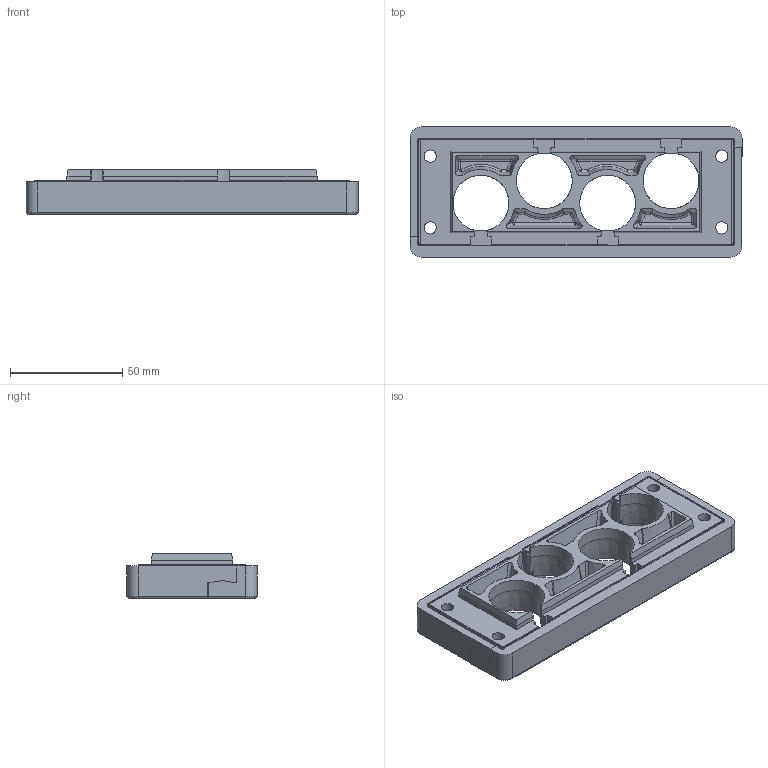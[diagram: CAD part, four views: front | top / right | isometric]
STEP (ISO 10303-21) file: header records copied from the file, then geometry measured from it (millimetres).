
FILE_DESCRIPTION(/* description */ (''),/* implementation_level */ '2;1');
FILE_NAME(/* name */ 'H:\SapWorkDir\Inventor\MP1\ConvertTempPath\87_11_121450_00_A_220620_KDL-C 24-4 ZSB.stp',/* time_stamp */ '2022-06-20T07:41:33+02:00',/* author */ ('BAUER'),/* organization */ (''),/* preprocessor_version */ 'ST-DEVELOPER v16.13',/* originating_system */ 'Autodesk Inventor 2018',/* authorisation */ '');
FILE_SCHEMA (('AUTOMOTIVE_DESIGN { 1 0 10303 214 3 1 1 }'));
Length unit declared in the file: millimetre
Products named in the file (3): 121450; Block2x6 neu; 121396
Assembly tree (3 placements, depth 2):
  121450
    Block2x6 neu
    121396  x2
Bounding box: 148 x 58 x 20 mm (x, y, z)
Volume: 89322.3 mm3; surface area: 45638.8 mm2
Topology: 3 solids, 3 shells, 1004 faces, 2665 edges, 1726 vertices
Faces by surface type: plane 655, cylinder 166, bspline 117, torus 26, sphere 24, cone 16
Full cylindrical faces by diameter (mm): 5 x4, 5.5 x10, 6 x2, 7 x4, 8 x4, 9 x4
Entity records: 22020 total; most frequent: CARTESIAN_POINT 5041, ORIENTED_EDGE 3558, DIRECTION 3227, EDGE_CURVE 1779, LINE 1241, VECTOR 1241, VERTEX_POINT 1161, AXIS2_PLACEMENT_3D 993
